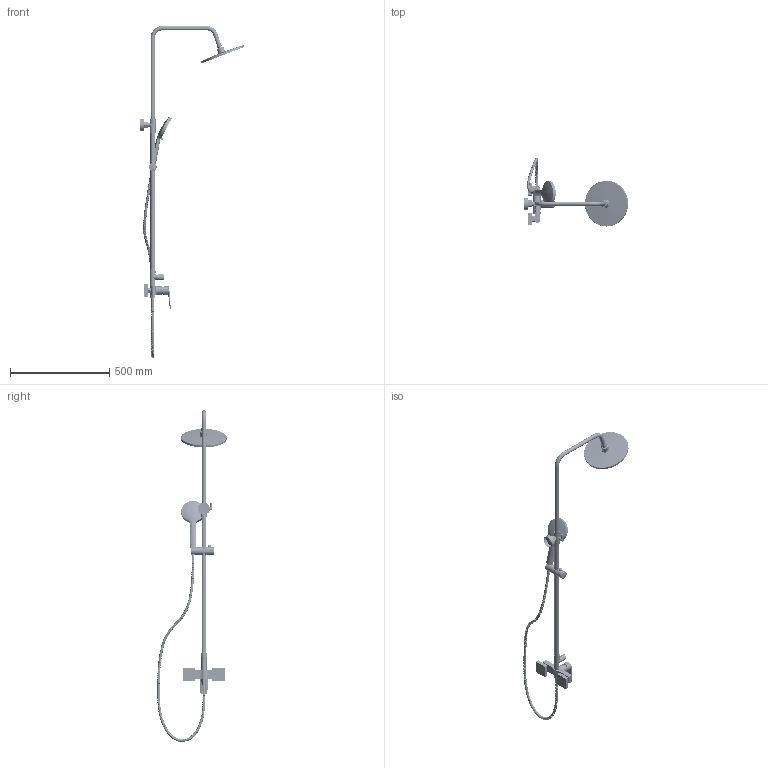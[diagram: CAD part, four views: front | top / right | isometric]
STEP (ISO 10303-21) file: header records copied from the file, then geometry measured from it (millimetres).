
FILE_DESCRIPTION(/* description */ (''),/* implementation_level */ '2;1');
FILE_NAME(/* name */ '两功能淋浴.stp',/* time_stamp */ '2024-03-02T22:14:29+08:00',/* author */ (''),/* organization */ (''),/* preprocessor_version */ 'ST-DEVELOPER v16',/* originating_system */ 'SIEMENS PLM Software NX 10.0',/* authorisation */ '');
FILE_SCHEMA (('CONFIG_CONTROL_DESIGN'));
Length unit declared in the file: millimetre
Products named in the file (1): 两功能淋浴
Bounding box: 526.1 x 350.02 x 1673.05 mm (x, y, z)
Volume: 2350856.8 mm3; surface area: 731434.5 mm2
Topology: 38 solids, 39 shells, 3996 faces, 8302 edges, 5832 vertices
Faces by surface type: plane 1711, cylinder 1588, torus 492, bspline 106, cone 79, sphere 20
Full cylindrical faces by diameter (mm): 0.5 x577, 2 x140, 2.5 x88, 3 x115, 3.372 x1, 3.5 x86, 4 x88, 4.5 x60, 5.157 x1, 7 x1, 8 x1, 8.9 x1, 9 x2, 10.3 x2, 12 x20, 14 x147, 14.5 x2, 15 x2, 15.501 x1, 15.6 x2, 16 x2, 17.2 x1, 18.5 x1, 19.1 x1, 20 x3, 20.5 x2, 20.6 x1, 21 x2, 21.5 x5, 21.9 x1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
Entity records: 104668 total; most frequent: CARTESIAN_POINT 34409, DIRECTION 15504, ORIENTED_EDGE 9780, AXIS2_PLACEMENT_3D 7503, EDGE_LOOP 7386, FACE_BOUND 6196, EDGE_CURVE 4890, VERTEX_POINT 4334
